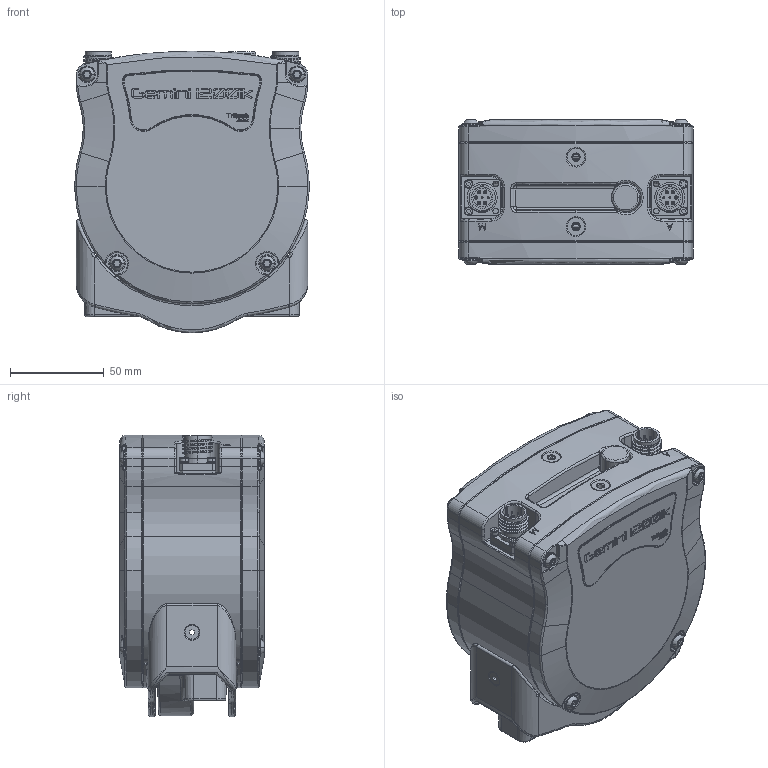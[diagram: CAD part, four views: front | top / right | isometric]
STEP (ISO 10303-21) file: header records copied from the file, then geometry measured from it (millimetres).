
FILE_DESCRIPTION (( 'STEP AP214' ), '1' );
FILE_NAME ('1200ik 1000m.STEP', '2023-10-16T12:49:59', ( '' ), ( '' ), 'SwSTEP 2.0', 'SolidWorks 2022', '' );
FILE_SCHEMA (( 'AUTOMOTIVE_DESIGN' ));
Length unit declared in the file: millimetre
Products named in the file (1): 1200ik 1000m
Bounding box: 125 x 77.4 x 150 mm (x, y, z)
Surface area: 97531.7 mm2 (no closed solid volume)
Topology: 0 solids, 78 shells, 1648 faces, 6063 edges, 4320 vertices
Faces by surface type: plane 551, cylinder 473, bspline 276, torus 263, cone 56, sphere 29
Entity records: 105253 total; most frequent: CARTESIAN_POINT 39607, ORIENTED_EDGE 9361, DIRECTION 9006, EDGE_CURVE 6043, VERTEX_POINT 4316, AXIS2_PLACEMENT_3D 3163, VECTOR 2680, LINE 2680
